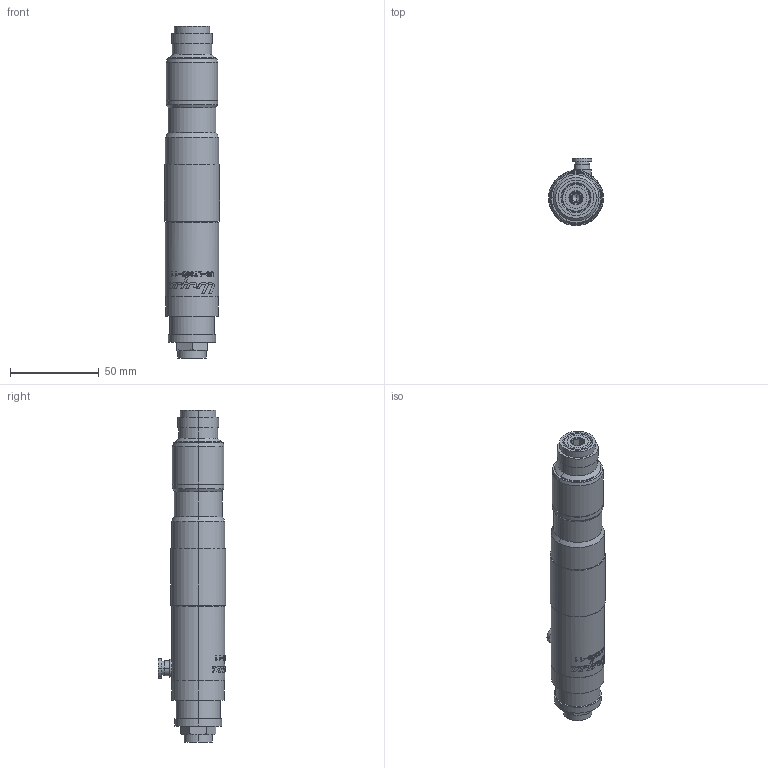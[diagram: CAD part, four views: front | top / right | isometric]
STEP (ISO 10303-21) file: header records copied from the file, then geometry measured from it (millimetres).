
FILE_DESCRIPTION (( 'STEP AP203' ), '1' );
FILE_NAME ('US-LT30B-11.STEP', '2006-03-22T03:59:04', ( '' ), ( '' ), 'SwSTEP 2.0', 'SolidWorks 2003240', '' );
FILE_SCHEMA (( 'CONFIG_CONTROL_DESIGN' ));
Length unit declared in the file: millimetre
Products named in the file (6): 9810020_蹬怮椔; US-LT30B-11; 4713192_蹬怮椔; 4715676_蹬怮椔; 4710258_蹬怮椔; 8930561_蹬怮椔
Assembly tree (5 placements, depth 2):
  US-LT30B-11
    4710258_蹬怮椔
    8930561_蹬怮椔
    4713192_蹬怮椔
    4715676_蹬怮椔
    9810020_蹬怮椔
Bounding box: 31 x 38 x 187 mm (x, y, z)
Volume: 114681.9 mm3; surface area: 24255.8 mm2
Topology: 5 solids, 5 shells, 389 faces, 977 edges, 636 vertices
Faces by surface type: plane 139, cylinder 130, bspline 88, cone 30, sphere 2
Entity records: 17357 total; most frequent: CARTESIAN_POINT 8175, ORIENTED_EDGE 1940, DIRECTION 1496, EDGE_CURVE 970, VERTEX_POINT 633, AXIS2_PLACEMENT_3D 551, EDGE_LOOP 435, VECTOR 394
